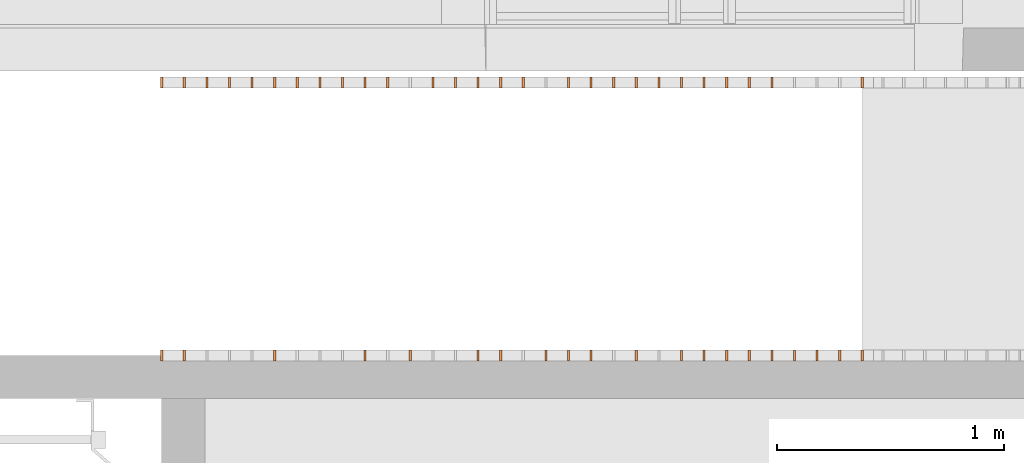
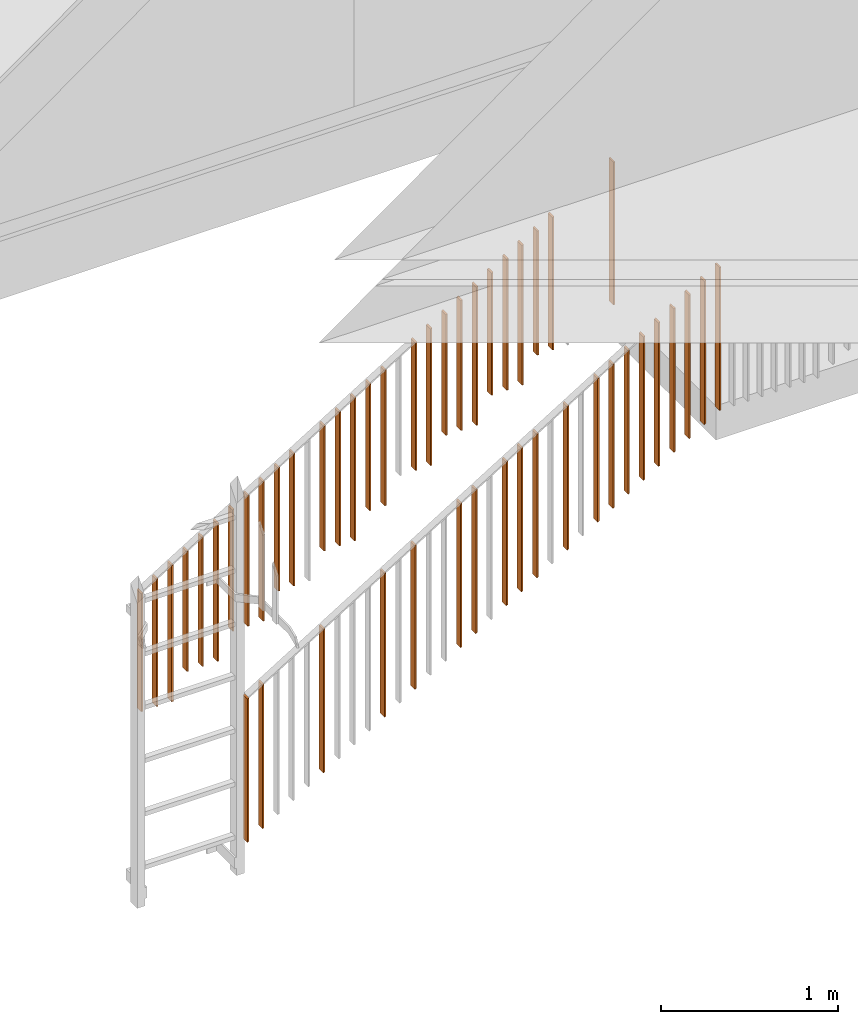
# One storey, part 95 of 100: 47 proxies, 2 elements without a shape of their own.
"""IFC2X3 building model written with IfcOpenShell, lengths in millimetres."""

from ifc_helpers import new_model, entity, si_unit, converted_unit, derived_unit, money_unit, direction, frame, origin_with_axes, place, context, subcontext, project, spatial, faceted_brep, material, type_object, element, aggregate, save


model = new_model("IFC2X3")

# Units and contexts
model_context = context("Model", 3, precision=0.01, world=origin_with_axes(), true_north=direction((0.0, 1.0)))
body_context = subcontext(model_context, "Body", "Model", "MODEL_VIEW")
ifc_project = project(units=[si_unit("LENGTHUNIT", "METRE", prefix="MILLI"), si_unit("AREAUNIT", "SQUARE_METRE"), si_unit("VOLUMEUNIT", "CUBIC_METRE"), converted_unit("PLANEANGLEUNIT", "DEGREE", entity("IfcPlaneAngleMeasure", 0.0174532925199), si_unit("PLANEANGLEUNIT", "RADIAN"), dimensions=[0, 0, 0, 0, 0, 0, 0]), si_unit("SOLIDANGLEUNIT", "STERADIAN"), money_unit("EUR"), converted_unit("TIMEUNIT", "Year", entity("IfcTimeMeasure", 31556926.0), si_unit("TIMEUNIT", "SECOND"), dimensions=[0, 0, 1, 0, 0, 0, 0]), si_unit("MASSUNIT", "GRAM", prefix="KILO"), si_unit("THERMODYNAMICTEMPERATUREUNIT", "DEGREE_CELSIUS"), si_unit("LUMINOUSINTENSITYUNIT", "LUMEN"), si_unit("ENERGYUNIT", "JOULE", prefix="MEGA"), derived_unit("THERMALCONDUCTANCEUNIT", [(si_unit("POWERUNIT", "WATT"), 1), (si_unit("LENGTHUNIT", "METRE"), -1), (si_unit("THERMODYNAMICTEMPERATUREUNIT", "KELVIN"), -1)]), derived_unit("SPECIFICHEATCAPACITYUNIT", [(si_unit("ENERGYUNIT", "JOULE"), 1), (si_unit("MASSUNIT", "GRAM", prefix="KILO"), -1), (si_unit("THERMODYNAMICTEMPERATUREUNIT", "KELVIN"), -1)]), derived_unit("MASSDENSITYUNIT", [(si_unit("MASSUNIT", "GRAM", prefix="KILO"), 1), (si_unit("VOLUMEUNIT", "CUBIC_METRE"), -1)])], contexts=[model_context])

# Site, building, storey
site_placement = place(None, origin_with_axes())
site = spatial("IfcSite", under=ifc_project, at=site_placement, Name="Politse- ja Piirivalveameti ning Päästeameti ühishoone", CompositionType="ELEMENT")
building_placement = place(site_placement, origin_with_axes())
building = spatial("IfcBuilding", under=site, at=building_placement, Name="Politse- ja Piirivalveameti ning Päästeameti ühishoone", CompositionType="ELEMENT")
storey_placement = place(building_placement, frame((0.0, 0.0, 3800.0), z_axis=(0.0, 0.0, 1.0), x_axis=(1.0, 0.0, 0.0)))
storey = spatial("IfcBuildingStorey", under=building, at=storey_placement, Name="Teine korrus", CompositionType="ELEMENT", Elevation=3800.0)

# Railing, proxies
railing_type = type_object("IfcRailingType", Name="Railing Type", PredefinedType="NOTDEFINED")
railing_1_placement = place(storey_placement, frame((18400.0260184, 11585.0198611, -3800.0), z_axis=(0.0, 0.0, 1.0), x_axis=(1.0, 0.0, 0.0)))
railing_1 = element("IfcRailing", 1, at=railing_1_placement, inside=storey, type_object=railing_type, Name="TREPIPIIRE 6", PredefinedType="NOTDEFINED")
ifc_material = material(Name="Teras - Konstruktsioon")
building_element_proxy_type = type_object("IfcBuildingElementProxyType", Name="IfcBuildingElementProxy", PredefinedType="NOTDEFINED")
proxy_1_placement = place(railing_1_placement, frame((0.0, -25.0, 0.0), z_axis=(0.0, 0.0, 1.0), x_axis=(1.0, 0.0, 0.0)))
proxy_1 = element("IfcBuildingElementProxy", 2, at=proxy_1_placement, type_object=building_element_proxy_type, material=ifc_material, Name="PIIRDE POST - 001", context=body_context, shape_type="Brep", body=[
    faceted_brep([(5.0, -25.0, 3.08441558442), (5.0, 25.0, 3.08441558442), (5.0, 25.0, 993.084415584), (5.0, -25.0, 993.084415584), (-5.0, -25.0, -3.08441558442), (-5.0, 25.0, -3.08441558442), (-5.0, 25.0, 986.915584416), (-5.0, -25.0, 986.915584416)], [[[0, 1, 2, 3]], [[0, 4, 5, 1]], [[1, 5, 6, 2]], [[3, 2, 6, 7]], [[4, 0, 3, 7]], [[5, 4, 7, 6]]]),
])
proxy_2_placement = place(railing_1_placement, frame((3080.0, -25.0, 1900.0), z_axis=(0.0, 0.0, 1.0), x_axis=(1.0, 0.0, 0.0)))
proxy_2 = element("IfcBuildingElementProxy", 3, at=proxy_2_placement, type_object=building_element_proxy_type, material=ifc_material, Name="PIIRDE POST - 001", context=body_context, shape_type="Brep", body=[
    faceted_brep([(5.0, -25.0, 1.41814436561), (5.0, 25.0, 1.41814436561), (5.0, 25.0, 986.732600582), (5.0, -25.0, 986.732600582), (-5.0, -25.0, -1.41814436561), (-5.0, 25.0, -1.41814436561), (-5.0, 25.0, 986.732600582), (-5.0, -25.0, 986.732600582)], [[[0, 1, 2, 3]], [[0, 4, 5, 1]], [[1, 5, 6, 2]], [[3, 2, 6, 7]], [[4, 0, 3, 7]], [[5, 4, 7, 6]]]),
])
proxy_3_placement = place(railing_1_placement, frame((99.3548387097, -25.0, 61.2903100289), z_axis=(0.0, 0.0, 1.0), x_axis=(1.0, 0.0, 0.0)))
proxy_3 = element("IfcBuildingElementProxy", 4, at=proxy_3_placement, type_object=building_element_proxy_type, material=ifc_material, Name="BALUSTER - 001", context=body_context, shape_type="Brep", body=[
    faceted_brep([(5.0, -25.0, 3.08441558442), (5.0, 25.0, 3.08441558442), (5.0, 25.0, 993.084428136), (5.0, -25.0, 993.084428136), (-5.0, -25.0, -3.08441558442), (-5.0, 25.0, -3.08441558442), (-5.0, 25.0, 986.915596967), (-5.0, -25.0, 986.915596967)], [[[0, 1, 2, 3]], [[0, 4, 5, 1]], [[1, 5, 6, 2]], [[3, 2, 6, 7]], [[4, 0, 3, 7]], [[5, 4, 7, 6]]]),
])
proxy_4_placement = place(railing_1_placement, frame((496.774193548, -25.0, 306.451600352), z_axis=(0.0, 0.0, 1.0), x_axis=(1.0, 0.0, 0.0)))
proxy_4 = element("IfcBuildingElementProxy", 5, at=proxy_4_placement, type_object=building_element_proxy_type, material=ifc_material, Name="BALUSTER - 001", context=body_context, shape_type="Brep", body=[
    faceted_brep([(5.0, -25.0, 3.08441558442), (5.0, 25.0, 3.08441558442), (5.0, 25.0, 993.084428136), (5.0, -25.0, 993.084428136), (-5.0, -25.0, -3.08441558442), (-5.0, 25.0, -3.08441558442), (-5.0, 25.0, 986.915596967), (-5.0, -25.0, 986.915596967)], [[[0, 1, 2, 3]], [[0, 4, 5, 1]], [[1, 5, 6, 2]], [[3, 2, 6, 7]], [[4, 0, 3, 7]], [[5, 4, 7, 6]]]),
])
proxy_5_placement = place(railing_1_placement, frame((894.193548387, -25.0, 551.612890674), z_axis=(0.0, 0.0, 1.0), x_axis=(1.0, 0.0, 0.0)))
proxy_5 = element("IfcBuildingElementProxy", 6, at=proxy_5_placement, type_object=building_element_proxy_type, material=ifc_material, Name="BALUSTER - 001", context=body_context, shape_type="Brep", body=[
    faceted_brep([(5.0, -25.0, 3.08441558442), (5.0, 25.0, 3.08441558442), (5.0, 25.0, 993.084428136), (5.0, -25.0, 993.084428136), (-5.0, -25.0, -3.08441558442), (-5.0, 25.0, -3.08441558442), (-5.0, 25.0, 986.915596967), (-5.0, -25.0, 986.915596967)], [[[0, 1, 2, 3]], [[0, 4, 5, 1]], [[1, 5, 6, 2]], [[3, 2, 6, 7]], [[4, 0, 3, 7]], [[5, 4, 7, 6]]]),
])
proxy_6_placement = place(railing_1_placement, frame((1092.90322581, -25.0, 674.193535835), z_axis=(0.0, 0.0, 1.0), x_axis=(1.0, 0.0, 0.0)))
proxy_6 = element("IfcBuildingElementProxy", 7, at=proxy_6_placement, type_object=building_element_proxy_type, material=ifc_material, Name="BALUSTER - 001", context=body_context, shape_type="Brep", body=[
    faceted_brep([(5.0, -25.0, 3.08441558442), (5.0, 25.0, 3.08441558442), (5.0, 25.0, 993.084428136), (5.0, -25.0, 993.084428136), (-5.0, -25.0, -3.08441558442), (-5.0, 25.0, -3.08441558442), (-5.0, 25.0, 986.915596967), (-5.0, -25.0, 986.915596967)], [[[0, 1, 2, 3]], [[0, 4, 5, 1]], [[1, 5, 6, 2]], [[3, 2, 6, 7]], [[4, 0, 3, 7]], [[5, 4, 7, 6]]]),
])
proxy_7_placement = place(railing_1_placement, frame((1390.96774194, -25.0, 858.064503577), z_axis=(0.0, 0.0, 1.0), x_axis=(1.0, 0.0, 0.0)))
proxy_7 = element("IfcBuildingElementProxy", 8, at=proxy_7_placement, type_object=building_element_proxy_type, material=ifc_material, Name="BALUSTER - 001", context=body_context, shape_type="Brep", body=[
    faceted_brep([(5.0, -25.0, 3.08441558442), (5.0, 25.0, 3.08441558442), (5.0, 25.0, 993.084428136), (5.0, -25.0, 993.084428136), (-5.0, -25.0, -3.08441558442), (-5.0, 25.0, -3.08441558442), (-5.0, 25.0, 986.915596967), (-5.0, -25.0, 986.915596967)], [[[0, 1, 2, 3]], [[0, 4, 5, 1]], [[1, 5, 6, 2]], [[3, 2, 6, 7]], [[4, 0, 3, 7]], [[5, 4, 7, 6]]]),
])
proxy_8_placement = place(railing_1_placement, frame((1490.32258065, -25.0, 919.354826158), z_axis=(0.0, 0.0, 1.0), x_axis=(1.0, 0.0, 0.0)))
proxy_8 = element("IfcBuildingElementProxy", 9, at=proxy_8_placement, type_object=building_element_proxy_type, material=ifc_material, Name="BALUSTER - 001", context=body_context, shape_type="Brep", body=[
    faceted_brep([(5.0, -25.0, 3.08441558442), (5.0, 25.0, 3.08441558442), (5.0, 25.0, 993.084428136), (5.0, -25.0, 993.084428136), (-5.0, -25.0, -3.08441558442), (-5.0, 25.0, -3.08441558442), (-5.0, 25.0, 986.915596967), (-5.0, -25.0, 986.915596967)], [[[0, 1, 2, 3]], [[0, 4, 5, 1]], [[1, 5, 6, 2]], [[3, 2, 6, 7]], [[4, 0, 3, 7]], [[5, 4, 7, 6]]]),
])
proxy_9_placement = place(railing_1_placement, frame((1689.03225806, -25.0, 1041.93547132), z_axis=(0.0, 0.0, 1.0), x_axis=(1.0, 0.0, 0.0)))
proxy_9 = element("IfcBuildingElementProxy", 10, at=proxy_9_placement, type_object=building_element_proxy_type, material=ifc_material, Name="BALUSTER - 001", context=body_context, shape_type="Brep", body=[
    faceted_brep([(5.0, -25.0, 3.08441558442), (5.0, 25.0, 3.08441558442), (5.0, 25.0, 993.084428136), (5.0, -25.0, 993.084428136), (-5.0, -25.0, -3.08441558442), (-5.0, 25.0, -3.08441558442), (-5.0, 25.0, 986.915596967), (-5.0, -25.0, 986.915596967)], [[[0, 1, 2, 3]], [[0, 4, 5, 1]], [[1, 5, 6, 2]], [[3, 2, 6, 7]], [[4, 0, 3, 7]], [[5, 4, 7, 6]]]),
])
proxy_10_placement = place(railing_1_placement, frame((1788.38709677, -25.0, 1103.2257939), z_axis=(0.0, 0.0, 1.0), x_axis=(1.0, 0.0, 0.0)))
proxy_10 = element("IfcBuildingElementProxy", 11, at=proxy_10_placement, type_object=building_element_proxy_type, material=ifc_material, Name="BALUSTER - 001", context=body_context, shape_type="Brep", body=[
    faceted_brep([(5.0, -25.0, 3.08441558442), (5.0, 25.0, 3.08441558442), (5.0, 25.0, 993.084428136), (5.0, -25.0, 993.084428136), (-5.0, -25.0, -3.08441558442), (-5.0, 25.0, -3.08441558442), (-5.0, 25.0, 986.915596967), (-5.0, -25.0, 986.915596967)], [[[0, 1, 2, 3]], [[0, 4, 5, 1]], [[1, 5, 6, 2]], [[3, 2, 6, 7]], [[4, 0, 3, 7]], [[5, 4, 7, 6]]]),
])
proxy_11_placement = place(railing_1_placement, frame((1887.74193548, -25.0, 1164.51611648), z_axis=(0.0, 0.0, 1.0), x_axis=(1.0, 0.0, 0.0)))
proxy_11 = element("IfcBuildingElementProxy", 12, at=proxy_11_placement, type_object=building_element_proxy_type, material=ifc_material, Name="BALUSTER - 001", context=body_context, shape_type="Brep", body=[
    faceted_brep([(5.0, -25.0, 3.08441558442), (5.0, 25.0, 3.08441558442), (5.0, 25.0, 993.084428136), (5.0, -25.0, 993.084428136), (-5.0, -25.0, -3.08441558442), (-5.0, 25.0, -3.08441558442), (-5.0, 25.0, 986.915596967), (-5.0, -25.0, 986.915596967)], [[[0, 1, 2, 3]], [[0, 4, 5, 1]], [[1, 5, 6, 2]], [[3, 2, 6, 7]], [[4, 0, 3, 7]], [[5, 4, 7, 6]]]),
])
proxy_12_placement = place(railing_1_placement, frame((2086.4516129, -25.0, 1287.09676164), z_axis=(0.0, 0.0, 1.0), x_axis=(1.0, 0.0, 0.0)))
proxy_12 = element("IfcBuildingElementProxy", 13, at=proxy_12_placement, type_object=building_element_proxy_type, material=ifc_material, Name="BALUSTER - 001", context=body_context, shape_type="Brep", body=[
    faceted_brep([(5.0, -25.0, 3.08441558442), (5.0, 25.0, 3.08441558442), (5.0, 25.0, 993.084428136), (5.0, -25.0, 993.084428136), (-5.0, -25.0, -3.08441558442), (-5.0, 25.0, -3.08441558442), (-5.0, 25.0, 986.915596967), (-5.0, -25.0, 986.915596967)], [[[0, 1, 2, 3]], [[0, 4, 5, 1]], [[1, 5, 6, 2]], [[3, 2, 6, 7]], [[4, 0, 3, 7]], [[5, 4, 7, 6]]]),
])
proxy_13_placement = place(railing_1_placement, frame((2285.16129032, -25.0, 1409.6774068), z_axis=(0.0, 0.0, 1.0), x_axis=(1.0, 0.0, 0.0)))
proxy_13 = element("IfcBuildingElementProxy", 14, at=proxy_13_placement, type_object=building_element_proxy_type, material=ifc_material, Name="BALUSTER - 001", context=body_context, shape_type="Brep", body=[
    faceted_brep([(5.0, -25.0, 3.08441558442), (5.0, 25.0, 3.08441558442), (5.0, 25.0, 993.084428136), (5.0, -25.0, 993.084428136), (-5.0, -25.0, -3.08441558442), (-5.0, 25.0, -3.08441558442), (-5.0, 25.0, 986.915596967), (-5.0, -25.0, 986.915596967)], [[[0, 1, 2, 3]], [[0, 4, 5, 1]], [[1, 5, 6, 2]], [[3, 2, 6, 7]], [[4, 0, 3, 7]], [[5, 4, 7, 6]]]),
])
proxy_14_placement = place(railing_1_placement, frame((2384.51612903, -25.0, 1470.96772938), z_axis=(0.0, 0.0, 1.0), x_axis=(1.0, 0.0, 0.0)))
proxy_14 = element("IfcBuildingElementProxy", 15, at=proxy_14_placement, type_object=building_element_proxy_type, material=ifc_material, Name="BALUSTER - 001", context=body_context, shape_type="Brep", body=[
    faceted_brep([(5.0, -25.0, 3.08441558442), (5.0, 25.0, 3.08441558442), (5.0, 25.0, 993.084428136), (5.0, -25.0, 993.084428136), (-5.0, -25.0, -3.08441558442), (-5.0, 25.0, -3.08441558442), (-5.0, 25.0, 986.915596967), (-5.0, -25.0, 986.915596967)], [[[0, 1, 2, 3]], [[0, 4, 5, 1]], [[1, 5, 6, 2]], [[3, 2, 6, 7]], [[4, 0, 3, 7]], [[5, 4, 7, 6]]]),
])
proxy_15_placement = place(railing_1_placement, frame((2483.87096774, -25.0, 1532.25805196), z_axis=(0.0, 0.0, 1.0), x_axis=(1.0, 0.0, 0.0)))
proxy_15 = element("IfcBuildingElementProxy", 16, at=proxy_15_placement, type_object=building_element_proxy_type, material=ifc_material, Name="BALUSTER - 001", context=body_context, shape_type="Brep", body=[
    faceted_brep([(5.0, -25.0, 3.08441558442), (5.0, 25.0, 3.08441558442), (5.0, 25.0, 993.084428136), (5.0, -25.0, 993.084428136), (-5.0, -25.0, -3.08441558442), (-5.0, 25.0, -3.08441558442), (-5.0, 25.0, 986.915596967), (-5.0, -25.0, 986.915596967)], [[[0, 1, 2, 3]], [[0, 4, 5, 1]], [[1, 5, 6, 2]], [[3, 2, 6, 7]], [[4, 0, 3, 7]], [[5, 4, 7, 6]]]),
])
proxy_16_placement = place(railing_1_placement, frame((2583.22580645, -25.0, 1593.54837455), z_axis=(0.0, 0.0, 1.0), x_axis=(1.0, 0.0, 0.0)))
proxy_16 = element("IfcBuildingElementProxy", 17, at=proxy_16_placement, type_object=building_element_proxy_type, material=ifc_material, Name="BALUSTER - 001", context=body_context, shape_type="Brep", body=[
    faceted_brep([(5.0, -25.0, 3.08441558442), (5.0, 25.0, 3.08441558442), (5.0, 25.0, 993.084428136), (5.0, -25.0, 993.084428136), (-5.0, -25.0, -3.08441558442), (-5.0, 25.0, -3.08441558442), (-5.0, 25.0, 986.915596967), (-5.0, -25.0, 986.915596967)], [[[0, 1, 2, 3]], [[0, 4, 5, 1]], [[1, 5, 6, 2]], [[3, 2, 6, 7]], [[4, 0, 3, 7]], [[5, 4, 7, 6]]]),
])
proxy_17_placement = place(railing_1_placement, frame((2682.58064516, -25.0, 1654.83869713), z_axis=(0.0, 0.0, 1.0), x_axis=(1.0, 0.0, 0.0)))
proxy_17 = element("IfcBuildingElementProxy", 18, at=proxy_17_placement, type_object=building_element_proxy_type, material=ifc_material, Name="BALUSTER - 001", context=body_context, shape_type="Brep", body=[
    faceted_brep([(5.0, -25.0, 3.08441558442), (5.0, 25.0, 3.08441558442), (5.0, 25.0, 993.084428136), (5.0, -25.0, 993.084428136), (-5.0, -25.0, -3.08441558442), (-5.0, 25.0, -3.08441558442), (-5.0, 25.0, 986.915596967), (-5.0, -25.0, 986.915596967)], [[[0, 1, 2, 3]], [[0, 4, 5, 1]], [[1, 5, 6, 2]], [[3, 2, 6, 7]], [[4, 0, 3, 7]], [[5, 4, 7, 6]]]),
])
proxy_18_placement = place(railing_1_placement, frame((2781.93548387, -25.0, 1716.12901971), z_axis=(0.0, 0.0, 1.0), x_axis=(1.0, 0.0, 0.0)))
proxy_18 = element("IfcBuildingElementProxy", 19, at=proxy_18_placement, type_object=building_element_proxy_type, material=ifc_material, Name="BALUSTER - 001", context=body_context, shape_type="Brep", body=[
    faceted_brep([(5.0, -25.0, 3.08441558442), (5.0, 25.0, 3.08441558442), (5.0, 25.0, 993.084428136), (5.0, -25.0, 993.084428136), (-5.0, -25.0, -3.08441558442), (-5.0, 25.0, -3.08441558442), (-5.0, 25.0, 986.915596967), (-5.0, -25.0, 986.915596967)], [[[0, 1, 2, 3]], [[0, 4, 5, 1]], [[1, 5, 6, 2]], [[3, 2, 6, 7]], [[4, 0, 3, 7]], [[5, 4, 7, 6]]]),
])
proxy_19_placement = place(railing_1_placement, frame((2881.29032258, -25.0, 1777.41934229), z_axis=(0.0, 0.0, 1.0), x_axis=(1.0, 0.0, 0.0)))
proxy_19 = element("IfcBuildingElementProxy", 20, at=proxy_19_placement, type_object=building_element_proxy_type, material=ifc_material, Name="BALUSTER - 001", context=body_context, shape_type="Brep", body=[
    faceted_brep([(5.0, -25.0, 3.08441558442), (5.0, 25.0, 3.08441558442), (5.0, 25.0, 993.084428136), (5.0, -25.0, 993.084428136), (-5.0, -25.0, -3.08441558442), (-5.0, 25.0, -3.08441558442), (-5.0, 25.0, 986.915596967), (-5.0, -25.0, 986.915596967)], [[[0, 1, 2, 3]], [[0, 4, 5, 1]], [[1, 5, 6, 2]], [[3, 2, 6, 7]], [[4, 0, 3, 7]], [[5, 4, 7, 6]]]),
])
proxy_20_placement = place(railing_1_placement, frame((2980.64516129, -25.0, 1838.70966487), z_axis=(0.0, 0.0, 1.0), x_axis=(1.0, 0.0, 0.0)))
proxy_20 = element("IfcBuildingElementProxy", 21, at=proxy_20_placement, type_object=building_element_proxy_type, material=ifc_material, Name="BALUSTER - 001", context=body_context, shape_type="Brep", body=[
    faceted_brep([(5.0, -25.0, 3.08441558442), (5.0, 25.0, 3.08441558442), (5.0, 25.0, 993.084428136), (5.0, -25.0, 993.084428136), (-5.0, -25.0, -3.08441558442), (-5.0, 25.0, -3.08441558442), (-5.0, 25.0, 986.915596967), (-5.0, -25.0, 986.915596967)], [[[0, 1, 2, 3]], [[0, 4, 5, 1]], [[1, 5, 6, 2]], [[3, 2, 6, 7]], [[4, 0, 3, 7]], [[5, 4, 7, 6]]]),
])
aggregate(railing_1, [proxy_1, proxy_2, proxy_3, proxy_4, proxy_5, proxy_6, proxy_7, proxy_8, proxy_9, proxy_10, proxy_11, proxy_12, proxy_13, proxy_14, proxy_15, proxy_16, proxy_17, proxy_18, proxy_19, proxy_20])

railing_2_placement = place(storey_placement, frame((18400.0260184, 12785.0198611, -3800.0), z_axis=(0.0, 0.0, 1.0), x_axis=(1.0, 0.0, 0.0)))
railing_2 = element("IfcRailing", 22, at=railing_2_placement, inside=storey, type_object=railing_type, Name="TREPIPIIRE 7", PredefinedType="NOTDEFINED")
proxy_21_placement = place(railing_2_placement, frame((0.0, -25.0, 172.727272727), z_axis=(0.0, 0.0, 1.0), x_axis=(1.0, 0.0, 0.0)))
proxy_21 = element("IfcBuildingElementProxy", 23, at=proxy_21_placement, type_object=building_element_proxy_type, material=ifc_material, Name="PIIRDE POST - 001", context=body_context, shape_type="Brep", body=[
    faceted_brep([(5.0, -25.0, 0.0), (5.0, 25.0, 0.0), (5.0, 25.0, 820.357142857), (5.0, -25.0, 820.357142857), (-5.0, -25.0, 0.0), (-5.0, 25.0, 0.0), (-5.0, 25.0, 814.188311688), (-5.0, -25.0, 814.188311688)], [[[0, 1, 2, 3]], [[0, 4, 5, 1]], [[1, 5, 6, 2]], [[3, 2, 6, 7]], [[4, 0, 3, 7]], [[5, 4, 7, 6]]]),
])
proxy_22_placement = place(railing_2_placement, frame((3080.0, -25.0, 1900.0), z_axis=(0.0, 0.0, 1.0), x_axis=(1.0, 0.0, 0.0)))
proxy_22 = element("IfcBuildingElementProxy", 24, at=proxy_22_placement, type_object=building_element_proxy_type, material=ifc_material, Name="PIIRDE POST - 001", context=body_context, shape_type="Brep", body=[
    faceted_brep([(5.0, -25.0, 1.41814436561), (5.0, 25.0, 1.41814436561), (5.0, 25.0, 986.732600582), (5.0, -25.0, 986.732600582), (-5.0, -25.0, -1.41814436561), (-5.0, 25.0, -1.41814436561), (-5.0, 25.0, 986.732600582), (-5.0, -25.0, 986.732600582)], [[[0, 1, 2, 3]], [[0, 4, 5, 1]], [[1, 5, 6, 2]], [[3, 2, 6, 7]], [[4, 0, 3, 7]], [[5, 4, 7, 6]]]),
])
proxy_23_placement = place(railing_2_placement, frame((99.3548387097, -25.0, 172.727260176), z_axis=(0.0, 0.0, 1.0), x_axis=(1.0, 0.0, 0.0)))
proxy_23 = element("IfcBuildingElementProxy", 25, at=proxy_23_placement, type_object=building_element_proxy_type, material=ifc_material, Name="BALUSTER - 001", context=body_context, shape_type="Brep", body=[
    faceted_brep([(5.0, -25.0, 0.0), (5.0, 25.0, 0.0), (5.0, 25.0, 881.647477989), (5.0, -25.0, 881.647477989), (-5.0, -25.0, 0.0), (-5.0, 25.0, 0.0), (-5.0, 25.0, 875.478646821), (-5.0, -25.0, 875.478646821)], [[[0, 1, 2, 3]], [[0, 4, 5, 1]], [[1, 5, 6, 2]], [[3, 2, 6, 7]], [[4, 0, 3, 7]], [[5, 4, 7, 6]]]),
])
proxy_24_placement = place(railing_2_placement, frame((198.709677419, -25.0, 172.727260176), z_axis=(0.0, 0.0, 1.0), x_axis=(1.0, 0.0, 0.0)))
proxy_24 = element("IfcBuildingElementProxy", 26, at=proxy_24_placement, type_object=building_element_proxy_type, material=ifc_material, Name="BALUSTER - 001", context=body_context, shape_type="Brep", body=[
    faceted_brep([(5.0, -25.0, 0.0), (5.0, 25.0, 0.0), (5.0, 25.0, 942.93780057), (5.0, -25.0, 942.93780057), (-5.0, -25.0, 0.0), (-5.0, 25.0, 0.0), (-5.0, 25.0, 936.768969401), (-5.0, -25.0, 936.768969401)], [[[0, 1, 2, 3]], [[0, 4, 5, 1]], [[1, 5, 6, 2]], [[3, 2, 6, 7]], [[4, 0, 3, 7]], [[5, 4, 7, 6]]]),
])
proxy_25_placement = place(railing_2_placement, frame((298.064516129, -25.0, 345.454532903), z_axis=(0.0, 0.0, 1.0), x_axis=(1.0, 0.0, 0.0)))
proxy_25 = element("IfcBuildingElementProxy", 27, at=proxy_25_placement, type_object=building_element_proxy_type, material=ifc_material, Name="BALUSTER - 001", context=body_context, shape_type="Brep", body=[
    faceted_brep([(5.0, -25.0, 0.0), (5.0, 25.0, 0.0), (5.0, 25.0, 831.500850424), (5.0, -25.0, 831.500850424), (-5.0, -25.0, 0.0), (-5.0, 25.0, 0.0), (-5.0, 25.0, 825.332019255), (-5.0, -25.0, 825.332019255)], [[[0, 1, 2, 3]], [[0, 4, 5, 1]], [[1, 5, 6, 2]], [[3, 2, 6, 7]], [[4, 0, 3, 7]], [[5, 4, 7, 6]]]),
])
proxy_26_placement = place(railing_2_placement, frame((397.419354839, -25.0, 345.454532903), z_axis=(0.0, 0.0, 1.0), x_axis=(1.0, 0.0, 0.0)))
proxy_26 = element("IfcBuildingElementProxy", 28, at=proxy_26_placement, type_object=building_element_proxy_type, material=ifc_material, Name="BALUSTER - 001", context=body_context, shape_type="Brep", body=[
    faceted_brep([(5.0, -25.0, 0.0), (5.0, 25.0, 0.0), (5.0, 25.0, 892.791173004), (5.0, -25.0, 892.791173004), (-5.0, -25.0, 0.0), (-5.0, 25.0, 0.0), (-5.0, 25.0, 886.622341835), (-5.0, -25.0, 886.622341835)], [[[0, 1, 2, 3]], [[0, 4, 5, 1]], [[1, 5, 6, 2]], [[3, 2, 6, 7]], [[4, 0, 3, 7]], [[5, 4, 7, 6]]]),
])
proxy_27_placement = place(railing_2_placement, frame((496.774193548, -25.0, 345.454532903), z_axis=(0.0, 0.0, 1.0), x_axis=(1.0, 0.0, 0.0)))
proxy_27 = element("IfcBuildingElementProxy", 29, at=proxy_27_placement, type_object=building_element_proxy_type, material=ifc_material, Name="BALUSTER - 001", context=body_context, shape_type="Brep", body=[
    faceted_brep([(5.0, -25.0, 0.0), (5.0, 25.0, 0.0), (5.0, 25.0, 954.081495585), (5.0, -25.0, 954.081495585), (-5.0, -25.0, 0.0), (-5.0, 25.0, 0.0), (-5.0, 25.0, 947.912664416), (-5.0, -25.0, 947.912664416)], [[[0, 1, 2, 3]], [[0, 4, 5, 1]], [[1, 5, 6, 2]], [[3, 2, 6, 7]], [[4, 0, 3, 7]], [[5, 4, 7, 6]]]),
])
proxy_28_placement = place(railing_2_placement, frame((596.129032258, -25.0, 518.18180563), z_axis=(0.0, 0.0, 1.0), x_axis=(1.0, 0.0, 0.0)))
proxy_28 = element("IfcBuildingElementProxy", 30, at=proxy_28_placement, type_object=building_element_proxy_type, material=ifc_material, Name="BALUSTER - 001", context=body_context, shape_type="Brep", body=[
    faceted_brep([(5.0, -25.0, 0.0), (5.0, 25.0, 0.0), (5.0, 25.0, 842.644545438), (5.0, -25.0, 842.644545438), (-5.0, -25.0, 0.0), (-5.0, 25.0, 0.0), (-5.0, 25.0, 836.475714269), (-5.0, -25.0, 836.475714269)], [[[0, 1, 2, 3]], [[0, 4, 5, 1]], [[1, 5, 6, 2]], [[3, 2, 6, 7]], [[4, 0, 3, 7]], [[5, 4, 7, 6]]]),
])
proxy_29_placement = place(railing_2_placement, frame((695.483870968, -25.0, 518.18180563), z_axis=(0.0, 0.0, 1.0), x_axis=(1.0, 0.0, 0.0)))
proxy_29 = element("IfcBuildingElementProxy", 31, at=proxy_29_placement, type_object=building_element_proxy_type, material=ifc_material, Name="BALUSTER - 001", context=body_context, shape_type="Brep", body=[
    faceted_brep([(5.0, -25.0, 0.0), (5.0, 25.0, 0.0), (5.0, 25.0, 903.934868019), (5.0, -25.0, 903.934868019), (-5.0, -25.0, 0.0), (-5.0, 25.0, 0.0), (-5.0, 25.0, 897.76603685), (-5.0, -25.0, 897.76603685)], [[[0, 1, 2, 3]], [[0, 4, 5, 1]], [[1, 5, 6, 2]], [[3, 2, 6, 7]], [[4, 0, 3, 7]], [[5, 4, 7, 6]]]),
])
proxy_30_placement = place(railing_2_placement, frame((794.838709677, -25.0, 518.18180563), z_axis=(0.0, 0.0, 1.0), x_axis=(1.0, 0.0, 0.0)))
proxy_30 = element("IfcBuildingElementProxy", 32, at=proxy_30_placement, type_object=building_element_proxy_type, material=ifc_material, Name="BALUSTER - 001", context=body_context, shape_type="Brep", body=[
    faceted_brep([(5.0, -25.0, 0.0), (5.0, 25.0, 0.0), (5.0, 25.0, 965.225190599), (5.0, -25.0, 965.225190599), (-5.0, -25.0, 0.0), (-5.0, 25.0, 0.0), (-5.0, 25.0, 959.056359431), (-5.0, -25.0, 959.056359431)], [[[0, 1, 2, 3]], [[0, 4, 5, 1]], [[1, 5, 6, 2]], [[3, 2, 6, 7]], [[4, 0, 3, 7]], [[5, 4, 7, 6]]]),
])
proxy_31_placement = place(railing_2_placement, frame((894.193548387, -25.0, 690.909078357), z_axis=(0.0, 0.0, 1.0), x_axis=(1.0, 0.0, 0.0)))
proxy_31 = element("IfcBuildingElementProxy", 33, at=proxy_31_placement, type_object=building_element_proxy_type, material=ifc_material, Name="BALUSTER - 001", context=body_context, shape_type="Brep", body=[
    faceted_brep([(5.0, -25.0, 0.0), (5.0, 25.0, 0.0), (5.0, 25.0, 853.788240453), (5.0, -25.0, 853.788240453), (-5.0, -25.0, 0.0), (-5.0, 25.0, 0.0), (-5.0, 25.0, 847.619409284), (-5.0, -25.0, 847.619409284)], [[[0, 1, 2, 3]], [[0, 4, 5, 1]], [[1, 5, 6, 2]], [[3, 2, 6, 7]], [[4, 0, 3, 7]], [[5, 4, 7, 6]]]),
])
proxy_32_placement = place(railing_2_placement, frame((993.548387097, -25.0, 690.909078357), z_axis=(0.0, 0.0, 1.0), x_axis=(1.0, 0.0, 0.0)))
proxy_32 = element("IfcBuildingElementProxy", 34, at=proxy_32_placement, type_object=building_element_proxy_type, material=ifc_material, Name="BALUSTER - 001", context=body_context, shape_type="Brep", body=[
    faceted_brep([(5.0, -25.0, 0.0), (5.0, 25.0, 0.0), (5.0, 25.0, 915.078563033), (5.0, -25.0, 915.078563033), (-5.0, -25.0, 0.0), (-5.0, 25.0, 0.0), (-5.0, 25.0, 908.909731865), (-5.0, -25.0, 908.909731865)], [[[0, 1, 2, 3]], [[0, 4, 5, 1]], [[1, 5, 6, 2]], [[3, 2, 6, 7]], [[4, 0, 3, 7]], [[5, 4, 7, 6]]]),
])
proxy_33_placement = place(railing_2_placement, frame((1192.25806452, -25.0, 863.636351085), z_axis=(0.0, 0.0, 1.0), x_axis=(1.0, 0.0, 0.0)))
proxy_33 = element("IfcBuildingElementProxy", 35, at=proxy_33_placement, type_object=building_element_proxy_type, material=ifc_material, Name="BALUSTER - 001", context=body_context, shape_type="Brep", body=[
    faceted_brep([(5.0, -25.0, 0.0), (5.0, 25.0, 0.0), (5.0, 25.0, 864.931935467), (5.0, -25.0, 864.931935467), (-5.0, -25.0, 0.0), (-5.0, 25.0, 0.0), (-5.0, 25.0, 858.763104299), (-5.0, -25.0, 858.763104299)], [[[0, 1, 2, 3]], [[0, 4, 5, 1]], [[1, 5, 6, 2]], [[3, 2, 6, 7]], [[4, 0, 3, 7]], [[5, 4, 7, 6]]]),
])
proxy_34_placement = place(railing_2_placement, frame((1291.61290323, -25.0, 863.636351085), z_axis=(0.0, 0.0, 1.0), x_axis=(1.0, 0.0, 0.0)))
proxy_34 = element("IfcBuildingElementProxy", 36, at=proxy_34_placement, type_object=building_element_proxy_type, material=ifc_material, Name="BALUSTER - 001", context=body_context, shape_type="Brep", body=[
    faceted_brep([(5.0, -25.0, 0.0), (5.0, 25.0, 0.0), (5.0, 25.0, 926.222258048), (5.0, -25.0, 926.222258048), (-5.0, -25.0, 0.0), (-5.0, 25.0, 0.0), (-5.0, 25.0, 920.053426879), (-5.0, -25.0, 920.053426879)], [[[0, 1, 2, 3]], [[0, 4, 5, 1]], [[1, 5, 6, 2]], [[3, 2, 6, 7]], [[4, 0, 3, 7]], [[5, 4, 7, 6]]]),
])
proxy_35_placement = place(railing_2_placement, frame((1390.96774194, -25.0, 863.636351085), z_axis=(0.0, 0.0, 1.0), x_axis=(1.0, 0.0, 0.0)))
proxy_35 = element("IfcBuildingElementProxy", 37, at=proxy_35_placement, type_object=building_element_proxy_type, material=ifc_material, Name="BALUSTER - 001", context=body_context, shape_type="Brep", body=[
    faceted_brep([(5.0, -25.0, 0.0), (5.0, 25.0, 0.0), (5.0, 25.0, 987.512580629), (5.0, -25.0, 987.512580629), (-5.0, -25.0, 0.0), (-5.0, 25.0, 0.0), (-5.0, 25.0, 981.34374946), (-5.0, -25.0, 981.34374946)], [[[0, 1, 2, 3]], [[0, 4, 5, 1]], [[1, 5, 6, 2]], [[3, 2, 6, 7]], [[4, 0, 3, 7]], [[5, 4, 7, 6]]]),
])
proxy_36_placement = place(railing_2_placement, frame((1490.32258065, -25.0, 1036.36362381), z_axis=(0.0, 0.0, 1.0), x_axis=(1.0, 0.0, 0.0)))
proxy_36 = element("IfcBuildingElementProxy", 38, at=proxy_36_placement, type_object=building_element_proxy_type, material=ifc_material, Name="BALUSTER - 001", context=body_context, shape_type="Brep", body=[
    faceted_brep([(5.0, -25.0, 0.0), (5.0, 25.0, 0.0), (5.0, 25.0, 876.075630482), (5.0, -25.0, 876.075630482), (-5.0, -25.0, 0.0), (-5.0, 25.0, 0.0), (-5.0, 25.0, 869.906799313), (-5.0, -25.0, 869.906799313)], [[[0, 1, 2, 3]], [[0, 4, 5, 1]], [[1, 5, 6, 2]], [[3, 2, 6, 7]], [[4, 0, 3, 7]], [[5, 4, 7, 6]]]),
])
proxy_37_placement = place(railing_2_placement, frame((1589.67741935, -25.0, 1036.36362381), z_axis=(0.0, 0.0, 1.0), x_axis=(1.0, 0.0, 0.0)))
proxy_37 = element("IfcBuildingElementProxy", 39, at=proxy_37_placement, type_object=building_element_proxy_type, material=ifc_material, Name="BALUSTER - 001", context=body_context, shape_type="Brep", body=[
    faceted_brep([(5.0, -25.0, 0.0), (5.0, 25.0, 0.0), (5.0, 25.0, 937.365953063), (5.0, -25.0, 937.365953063), (-5.0, -25.0, 0.0), (-5.0, 25.0, 0.0), (-5.0, 25.0, 931.197121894), (-5.0, -25.0, 931.197121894)], [[[0, 1, 2, 3]], [[0, 4, 5, 1]], [[1, 5, 6, 2]], [[3, 2, 6, 7]], [[4, 0, 3, 7]], [[5, 4, 7, 6]]]),
])
proxy_38_placement = place(railing_2_placement, frame((1788.38709677, -25.0, 1209.09089654), z_axis=(0.0, 0.0, 1.0), x_axis=(1.0, 0.0, 0.0)))
proxy_38 = element("IfcBuildingElementProxy", 40, at=proxy_38_placement, type_object=building_element_proxy_type, material=ifc_material, Name="BALUSTER - 001", context=body_context, shape_type="Brep", body=[
    faceted_brep([(5.0, -25.0, 0.0), (5.0, 25.0, 0.0), (5.0, 25.0, 887.219325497), (5.0, -25.0, 887.219325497), (-5.0, -25.0, 0.0), (-5.0, 25.0, 0.0), (-5.0, 25.0, 881.050494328), (-5.0, -25.0, 881.050494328)], [[[0, 1, 2, 3]], [[0, 4, 5, 1]], [[1, 5, 6, 2]], [[3, 2, 6, 7]], [[4, 0, 3, 7]], [[5, 4, 7, 6]]]),
])
proxy_39_placement = place(railing_2_placement, frame((1887.74193548, -25.0, 1209.09089654), z_axis=(0.0, 0.0, 1.0), x_axis=(1.0, 0.0, 0.0)))
proxy_39 = element("IfcBuildingElementProxy", 41, at=proxy_39_placement, type_object=building_element_proxy_type, material=ifc_material, Name="BALUSTER - 001", context=body_context, shape_type="Brep", body=[
    faceted_brep([(5.0, -25.0, 0.0), (5.0, 25.0, 0.0), (5.0, 25.0, 948.509648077), (5.0, -25.0, 948.509648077), (-5.0, -25.0, 0.0), (-5.0, 25.0, 0.0), (-5.0, 25.0, 942.340816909), (-5.0, -25.0, 942.340816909)], [[[0, 1, 2, 3]], [[0, 4, 5, 1]], [[1, 5, 6, 2]], [[3, 2, 6, 7]], [[4, 0, 3, 7]], [[5, 4, 7, 6]]]),
])
proxy_40_placement = place(railing_2_placement, frame((1987.09677419, -25.0, 1381.81816927), z_axis=(0.0, 0.0, 1.0), x_axis=(1.0, 0.0, 0.0)))
proxy_40 = element("IfcBuildingElementProxy", 42, at=proxy_40_placement, type_object=building_element_proxy_type, material=ifc_material, Name="BALUSTER - 001", context=body_context, shape_type="Brep", body=[
    faceted_brep([(5.0, -25.0, 0.0), (5.0, 25.0, 0.0), (5.0, 25.0, 837.072697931), (5.0, -25.0, 837.072697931), (-5.0, -25.0, 0.0), (-5.0, 25.0, 0.0), (-5.0, 25.0, 830.903866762), (-5.0, -25.0, 830.903866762)], [[[0, 1, 2, 3]], [[0, 4, 5, 1]], [[1, 5, 6, 2]], [[3, 2, 6, 7]], [[4, 0, 3, 7]], [[5, 4, 7, 6]]]),
])
proxy_41_placement = place(railing_2_placement, frame((2086.4516129, -25.0, 1381.81816927), z_axis=(0.0, 0.0, 1.0), x_axis=(1.0, 0.0, 0.0)))
proxy_41 = element("IfcBuildingElementProxy", 43, at=proxy_41_placement, type_object=building_element_proxy_type, material=ifc_material, Name="BALUSTER - 001", context=body_context, shape_type="Brep", body=[
    faceted_brep([(5.0, -25.0, 0.0), (5.0, 25.0, 0.0), (5.0, 25.0, 898.363020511), (5.0, -25.0, 898.363020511), (-5.0, -25.0, 0.0), (-5.0, 25.0, 0.0), (-5.0, 25.0, 892.194189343), (-5.0, -25.0, 892.194189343)], [[[0, 1, 2, 3]], [[0, 4, 5, 1]], [[1, 5, 6, 2]], [[3, 2, 6, 7]], [[4, 0, 3, 7]], [[5, 4, 7, 6]]]),
])
proxy_42_placement = place(railing_2_placement, frame((2185.80645161, -25.0, 1381.81816927), z_axis=(0.0, 0.0, 1.0), x_axis=(1.0, 0.0, 0.0)))
proxy_42 = element("IfcBuildingElementProxy", 44, at=proxy_42_placement, type_object=building_element_proxy_type, material=ifc_material, Name="BALUSTER - 001", context=body_context, shape_type="Brep", body=[
    faceted_brep([(5.0, -25.0, 0.0), (5.0, 25.0, 0.0), (5.0, 25.0, 959.653343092), (5.0, -25.0, 959.653343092), (-5.0, -25.0, 0.0), (-5.0, 25.0, 0.0), (-5.0, 25.0, 953.484511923), (-5.0, -25.0, 953.484511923)], [[[0, 1, 2, 3]], [[0, 4, 5, 1]], [[1, 5, 6, 2]], [[3, 2, 6, 7]], [[4, 0, 3, 7]], [[5, 4, 7, 6]]]),
])
proxy_43_placement = place(railing_2_placement, frame((2285.16129032, -25.0, 1554.54544199), z_axis=(0.0, 0.0, 1.0), x_axis=(1.0, 0.0, 0.0)))
proxy_43 = element("IfcBuildingElementProxy", 45, at=proxy_43_placement, type_object=building_element_proxy_type, material=ifc_material, Name="BALUSTER - 001", context=body_context, shape_type="Brep", body=[
    faceted_brep([(5.0, -25.0, 0.0), (5.0, 25.0, 0.0), (5.0, 25.0, 848.216392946), (5.0, -25.0, 848.216392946), (-5.0, -25.0, 0.0), (-5.0, 25.0, 0.0), (-5.0, 25.0, 842.047561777), (-5.0, -25.0, 842.047561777)], [[[0, 1, 2, 3]], [[0, 4, 5, 1]], [[1, 5, 6, 2]], [[3, 2, 6, 7]], [[4, 0, 3, 7]], [[5, 4, 7, 6]]]),
])
proxy_44_placement = place(railing_2_placement, frame((2384.51612903, -25.0, 1554.54544199), z_axis=(0.0, 0.0, 1.0), x_axis=(1.0, 0.0, 0.0)))
proxy_44 = element("IfcBuildingElementProxy", 46, at=proxy_44_placement, type_object=building_element_proxy_type, material=ifc_material, Name="BALUSTER - 001", context=body_context, shape_type="Brep", body=[
    faceted_brep([(5.0, -25.0, 0.0), (5.0, 25.0, 0.0), (5.0, 25.0, 909.506715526), (5.0, -25.0, 909.506715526), (-5.0, -25.0, 0.0), (-5.0, 25.0, 0.0), (-5.0, 25.0, 903.337884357), (-5.0, -25.0, 903.337884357)], [[[0, 1, 2, 3]], [[0, 4, 5, 1]], [[1, 5, 6, 2]], [[3, 2, 6, 7]], [[4, 0, 3, 7]], [[5, 4, 7, 6]]]),
])
proxy_45_placement = place(railing_2_placement, frame((2483.87096774, -25.0, 1554.54544199), z_axis=(0.0, 0.0, 1.0), x_axis=(1.0, 0.0, 0.0)))
proxy_45 = element("IfcBuildingElementProxy", 47, at=proxy_45_placement, type_object=building_element_proxy_type, material=ifc_material, Name="BALUSTER - 001", context=body_context, shape_type="Brep", body=[
    faceted_brep([(5.0, -25.0, 0.0), (5.0, 25.0, 0.0), (5.0, 25.0, 970.797038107), (5.0, -25.0, 970.797038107), (-5.0, -25.0, 0.0), (-5.0, 25.0, 0.0), (-5.0, 25.0, 964.628206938), (-5.0, -25.0, 964.628206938)], [[[0, 1, 2, 3]], [[0, 4, 5, 1]], [[1, 5, 6, 2]], [[3, 2, 6, 7]], [[4, 0, 3, 7]], [[5, 4, 7, 6]]]),
])
proxy_46_placement = place(railing_2_placement, frame((2583.22580645, -25.0, 1727.27271472), z_axis=(0.0, 0.0, 1.0), x_axis=(1.0, 0.0, 0.0)))
proxy_46 = element("IfcBuildingElementProxy", 48, at=proxy_46_placement, type_object=building_element_proxy_type, material=ifc_material, Name="BALUSTER - 001", context=body_context, shape_type="Brep", body=[
    faceted_brep([(5.0, -25.0, 0.0), (5.0, 25.0, 0.0), (5.0, 25.0, 859.36008796), (5.0, -25.0, 859.36008796), (-5.0, -25.0, 0.0), (-5.0, 25.0, 0.0), (-5.0, 25.0, 853.191256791), (-5.0, -25.0, 853.191256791)], [[[0, 1, 2, 3]], [[0, 4, 5, 1]], [[1, 5, 6, 2]], [[3, 2, 6, 7]], [[4, 0, 3, 7]], [[5, 4, 7, 6]]]),
])
proxy_47_placement = place(railing_2_placement, frame((2682.58064516, -25.0, 1727.27271472), z_axis=(0.0, 0.0, 1.0), x_axis=(1.0, 0.0, 0.0)))
proxy_47 = element("IfcBuildingElementProxy", 49, at=proxy_47_placement, type_object=building_element_proxy_type, material=ifc_material, Name="BALUSTER - 001", context=body_context, shape_type="Brep", body=[
    faceted_brep([(5.0, -25.0, 0.0), (5.0, 25.0, 0.0), (5.0, 25.0, 920.650410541), (5.0, -25.0, 920.650410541), (-5.0, -25.0, 0.0), (-5.0, 25.0, 0.0), (-5.0, 25.0, 914.481579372), (-5.0, -25.0, 914.481579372)], [[[0, 1, 2, 3]], [[0, 4, 5, 1]], [[1, 5, 6, 2]], [[3, 2, 6, 7]], [[4, 0, 3, 7]], [[5, 4, 7, 6]]]),
])
aggregate(railing_2, [proxy_21, proxy_22, proxy_23, proxy_24, proxy_25, proxy_26, proxy_27, proxy_28, proxy_29, proxy_30, proxy_31, proxy_32, proxy_33, proxy_34, proxy_35, proxy_36, proxy_37, proxy_38, proxy_39, proxy_40, proxy_41, proxy_42, proxy_43, proxy_44, proxy_45, proxy_46, proxy_47])

save(model, "model.ifc")
